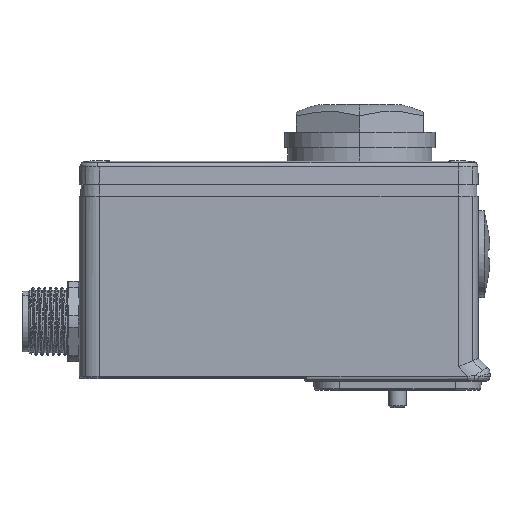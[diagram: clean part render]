
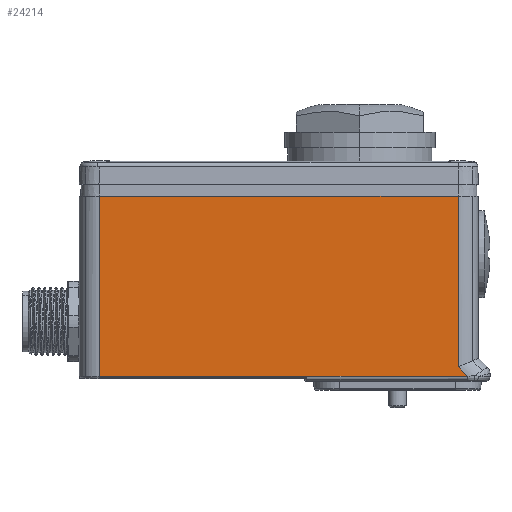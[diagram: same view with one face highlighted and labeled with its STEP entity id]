
A CAD part, top view. The second image highlights one B-rep face of the part: STEP entity #24214.
In plain terms, the highlighted planar face has unit normal (0, -0.018, 1).
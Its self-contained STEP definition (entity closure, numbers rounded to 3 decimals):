
#137 = DIRECTION ( 'NONE',  ( -1., 0., 0. ) ) ;
#294 = VERTEX_POINT ( 'NONE', #4988 ) ;
#934 = CARTESIAN_POINT ( 'NONE',  ( -68., 10.329, 40.169 ) ) ;
#3007 = ORIENTED_EDGE ( 'NONE', *, *, #13975, .F. ) ;
#4073 = CARTESIAN_POINT ( 'NONE',  ( -25.382, -1.3, 39.966 ) ) ;
#4339 = LINE ( 'NONE', #4073, #15137 ) ;
#4988 = CARTESIAN_POINT ( 'NONE',  ( -7.5, 10.329, 40.169 ) ) ;
#6576 = VECTOR ( 'NONE', #11870, 1000. ) ;
#6595 = LINE ( 'NONE', #26983, #9283 ) ;
#7506 = CARTESIAN_POINT ( 'NONE',  ( -7.5, 10.329, 40.169 ) ) ;
#7683 = EDGE_CURVE ( 'NONE', #17669, #12192, #12955, .T. ) ;
#8151 = FACE_OUTER_BOUND ( 'NONE', #20625, .T. ) ;
#8468 = ORIENTED_EDGE ( 'NONE', *, *, #7683, .F. ) ;
#8670 = ORIENTED_EDGE ( 'NONE', *, *, #10627, .F. ) ;
#9283 = VECTOR ( 'NONE', #23019, 1000. ) ;
#9892 = AXIS2_PLACEMENT_3D ( 'NONE', #14569, #16887, #25244 ) ;
#10627 = EDGE_CURVE ( 'NONE', #23138, #17669, #18731, .T. ) ;
#11250 = EDGE_CURVE ( 'NONE', #11550, #294, #23925, .T. ) ;
#11406 = VECTOR ( 'NONE', #26930, 1000. ) ;
#11550 = VERTEX_POINT ( 'NONE', #18635 ) ;
#11870 = DIRECTION ( 'NONE',  ( 1., 0., 0. ) ) ;
#12192 = VERTEX_POINT ( 'NONE', #17608 ) ;
#12654 = DIRECTION ( 'NONE',  ( 0.707, -0.707, -0.012 ) ) ;
#12657 = VECTOR ( 'NONE', #137, 1000. ) ;
#12955 = LINE ( 'NONE', #21177, #11406 ) ;
#13283 = VECTOR ( 'NONE', #20226, 1000. ) ;
#13318 = ORIENTED_EDGE ( 'NONE', *, *, #24244, .F. ) ;
#13975 = EDGE_CURVE ( 'NONE', #12192, #11550, #6595, .T. ) ;
#14081 = VERTEX_POINT ( 'NONE', #19443 ) ;
#14569 = CARTESIAN_POINT ( 'NONE',  ( -51.5, 10.329, 40.169 ) ) ;
#15137 = VECTOR ( 'NONE', #12654, 1000. ) ;
#16611 = PLANE ( 'NONE',  #9892 ) ;
#16887 = DIRECTION ( 'NONE',  ( 0., 0.017, -1. ) ) ;
#17608 = CARTESIAN_POINT ( 'NONE',  ( -69.488, -20.827, 39.621 ) ) ;
#17669 = VERTEX_POINT ( 'NONE', #19131 ) ;
#18635 = CARTESIAN_POINT ( 'NONE',  ( -69.488, 10.329, 40.169 ) ) ;
#18731 = LINE ( 'NONE', #24630, #12657 ) ;
#19131 = CARTESIAN_POINT ( 'NONE',  ( -33.65, -20.827, 39.625 ) ) ;
#19443 = CARTESIAN_POINT ( 'NONE',  ( -7.5, -19.182, 39.654 ) ) ;
#19759 = ORIENTED_EDGE ( 'NONE', *, *, #21753, .F. ) ;
#20078 = ORIENTED_EDGE ( 'NONE', *, *, #11250, .F. ) ;
#20226 = DIRECTION ( 'NONE',  ( 0., -1., -0.017 ) ) ;
#20625 = EDGE_LOOP ( 'NONE', ( #3007, #8468, #8670, #13318, #19759, #20078 ) ) ;
#21177 = CARTESIAN_POINT ( 'NONE',  ( -43.25, -20.827, 39.625 ) ) ;
#21753 = EDGE_CURVE ( 'NONE', #294, #14081, #26244, .T. ) ;
#23019 = DIRECTION ( 'NONE',  ( 0., 1., 0.017 ) ) ;
#23138 = VERTEX_POINT ( 'NONE', #26758 ) ;
#23925 = LINE ( 'NONE', #934, #6576 ) ;
#24214 = ADVANCED_FACE ( 'NONE', ( #8151 ), #16611, .F. ) ;
#24244 = EDGE_CURVE ( 'NONE', #14081, #23138, #4339, .T. ) ;
#24630 = CARTESIAN_POINT ( 'NONE',  ( -43.25, -20.828, 39.625 ) ) ;
#25244 = DIRECTION ( 'NONE',  ( -1., 0., 0. ) ) ;
#26244 = LINE ( 'NONE', #7506, #13283 ) ;
#26758 = CARTESIAN_POINT ( 'NONE',  ( -5.854, -20.828, 39.625 ) ) ;
#26930 = DIRECTION ( 'NONE',  ( -1., 0., 0. ) ) ;
#26983 = CARTESIAN_POINT ( 'NONE',  ( -69.488, -5.995, 39.884 ) ) ;
